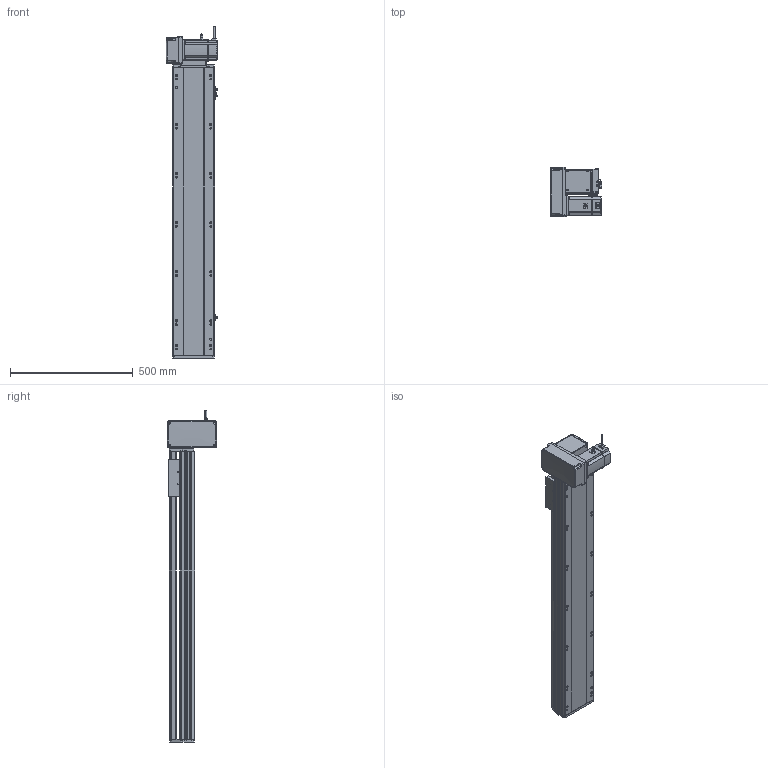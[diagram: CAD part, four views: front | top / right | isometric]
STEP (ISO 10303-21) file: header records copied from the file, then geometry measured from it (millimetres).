
FILE_DESCRIPTION (( 'STEP AP214' ), '1' );
FILE_NAME ('RTB17S-XX-900-LM-M75-C4.STEP', '2025-12-12T00:37:38', ( '' ), ( '' ), 'SwSTEP 2.0', 'SolidWorks 2018', '' );
FILE_SCHEMA (( 'AUTOMOTIVE_DESIGN' ));
Length unit declared in the file: millimetre
Products named in the file (15): RTB17S-L-007奻裔^RTB17S-XX-XX-LM-M75-C4; RTB17-R-011菁釱^RTB17S-XX-XX-LM-M75-C4; RTB17S-LM-々湍釱蚾饜-750W^RTB17S-XX-XX-LM-M75-C4; EE672^RTB17S-XX-XX-LM-M75-C4; RTB17S-XX-900-LM-M75-C4; RTB22S-GY-005P^RTB17S-LM-々湍釱蚾饜-750W_RTB17S-XX-XX-LM-M75-C4; RTB22S-GY-008-M75--萇儂啣^RTB17S-LM-々湍釱蚾饜-750W_RTB17S-XX-XX-LM-M75-C4; RTH13-BL-012覜茼え俋离^RTB17S-賑釱_RTB17S-XX-XX-LM-M75-C4; RTB17S-L-001-耜醱啣^RTB17S-XX-XX-LM-M75-C4; RTB22S-GY-018P^RTB17S-LM-々湍釱蚾饜-750W_RTB17S-XX-XX-LM-M75-C4; RTB17S-L-004-賑釱^RTB17S-賑釱_RTB17S-XX-XX-LM-M75-C4; RTB22S-GY-017P^RTB17S-LM-々湍釱蚾饜-750W_RTB17S-XX-XX-LM-M75-C4; RTB17S-賑釱^RTB17S-XX-XX-LM-M75-C4; 750W萇儂^RTB17S-XX-XX-LM-M75-C4; RTB17S-L-014-T20-P75--々湍釱^RTB17S-LM-々湍釱蚾饜-750W_RTB17S-XX-XX-LM-M75-C4
Assembly tree (17 placements, depth 3):
  RTB17S-XX-900-LM-M75-C4
    RTB17-R-011菁釱^RTB17S-XX-XX-LM-M75-C4
    EE672^RTB17S-XX-XX-LM-M75-C4  x3
    RTB17S-L-001-耜醱啣^RTB17S-XX-XX-LM-M75-C4
    RTB17S-賑釱^RTB17S-XX-XX-LM-M75-C4
      RTB17S-L-004-賑釱^RTB17S-賑釱_RTB17S-XX-XX-LM-M75-C4
      RTH13-BL-012覜茼え俋离^RTB17S-賑釱_RTB17S-XX-XX-LM-M75-C4
    RTB17S-L-007奻裔^RTB17S-XX-XX-LM-M75-C4
    750W萇儂^RTB17S-XX-XX-LM-M75-C4
    RTB17S-LM-々湍釱蚾饜-750W^RTB17S-XX-XX-LM-M75-C4
      RTB17S-L-014-T20-P75--々湍釱^RTB17S-LM-々湍釱蚾饜-750W_RTB17S-XX-XX-LM-M75-C4
      RTB22S-GY-005P^RTB17S-LM-々湍釱蚾饜-750W_RTB17S-XX-XX-LM-M75-C4
      RTB22S-GY-017P^RTB17S-LM-々湍釱蚾饜-750W_RTB17S-XX-XX-LM-M75-C4  x2
      RTB22S-GY-008-M75--萇儂啣^RTB17S-LM-々湍釱蚾饜-750W_RTB17S-XX-XX-LM-M75-C4
      RTB22S-GY-018P^RTB17S-LM-々湍釱蚾饜-750W_RTB17S-XX-XX-LM-M75-C4
Bounding box: 210.4 x 200 x 1352.2 mm (x, y, z)
Volume: 11573402.1 mm3; surface area: 1948985.5 mm2
Topology: 17 solids, 17 shells, 2089 faces, 5782 edges, 3734 vertices
Faces by surface type: plane 970, cylinder 703, bspline 294, cone 110, sphere 8, torus 4
Entity records: 58102 total; most frequent: CARTESIAN_POINT 17046, ORIENTED_EDGE 8408, DIRECTION 7862, EDGE_CURVE 4204, AXIS2_PLACEMENT_3D 2754, VERTEX_POINT 2738, VECTOR 2354, LINE 2354
